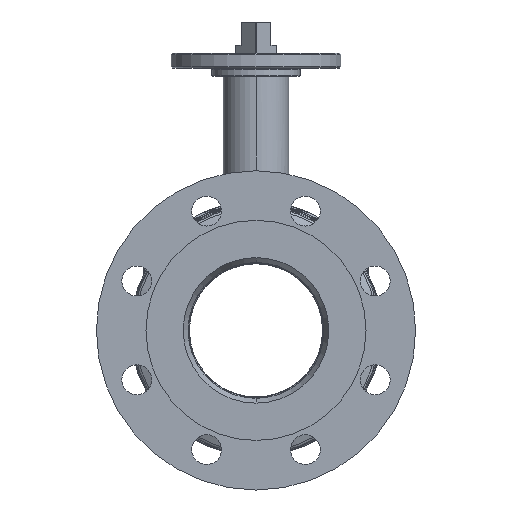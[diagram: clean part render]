
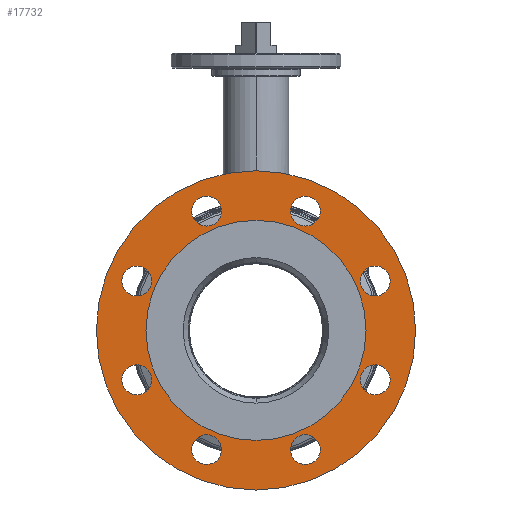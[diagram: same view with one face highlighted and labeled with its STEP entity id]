
A CAD part, left-side view. The second image highlights one B-rep face of the part: STEP entity #17732.
In plain terms, the highlighted planar face has unit normal (-1, 0, 0).
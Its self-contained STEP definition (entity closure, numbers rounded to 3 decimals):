
#5960=CARTESIAN_POINT('',(-173.,0.,0.));
#5961=DIRECTION('',(1.,0.,0.));
#5962=DIRECTION('',(0.,0.,1.));
#5963=AXIS2_PLACEMENT_3D('',#5960,#5961,#5962);
#5969=CARTESIAN_POINT('',(-173.,0.,0.));
#5970=DIRECTION('',(-1.,0.,0.));
#5971=DIRECTION('',(0.,0.,1.));
#5972=AXIS2_PLACEMENT_3D('',#5969,#5970,#5971);
#5978=CARTESIAN_POINT('',(-173.,0.,0.));
#5979=DIRECTION('',(-1.,0.,0.));
#5980=DIRECTION('',(0.,0.,1.));
#5981=AXIS2_PLACEMENT_3D('',#5978,#5979,#5980);
#5983=CARTESIAN_POINT('',(-173.,0.,0.));
#5984=DIRECTION('',(-1.,0.,0.));
#5985=DIRECTION('',(0.,0.,-1.));
#5986=AXIS2_PLACEMENT_3D('',#5983,#5984,#5985);
#5988=CARTESIAN_POINT('',(-173.,36.355,-87.769));
#5989=DIRECTION('',(-1.,0.,0.));
#5990=DIRECTION('',(0.,-1.,0.));
#5991=AXIS2_PLACEMENT_3D('',#5988,#5989,#5990);
#5993=CARTESIAN_POINT('',(-173.,36.355,-87.769));
#5994=DIRECTION('',(-1.,0.,0.));
#5995=DIRECTION('',(0.,1.,0.));
#5996=AXIS2_PLACEMENT_3D('',#5993,#5994,#5995);
#5998=CARTESIAN_POINT('',(-173.,87.769,-36.355));
#5999=DIRECTION('',(-1.,0.,0.));
#6000=DIRECTION('',(0.,-1.,0.));
#6001=AXIS2_PLACEMENT_3D('',#5998,#5999,#6000);
#6003=CARTESIAN_POINT('',(-173.,87.769,-36.355));
#6004=DIRECTION('',(-1.,0.,0.));
#6005=DIRECTION('',(0.,1.,0.));
#6006=AXIS2_PLACEMENT_3D('',#6003,#6004,#6005);
#6008=CARTESIAN_POINT('',(-173.,87.769,36.355));
#6009=DIRECTION('',(-1.,0.,0.));
#6010=DIRECTION('',(0.,-1.,0.));
#6011=AXIS2_PLACEMENT_3D('',#6008,#6009,#6010);
#6013=CARTESIAN_POINT('',(-173.,87.769,36.355));
#6014=DIRECTION('',(-1.,0.,0.));
#6015=DIRECTION('',(0.,1.,0.));
#6016=AXIS2_PLACEMENT_3D('',#6013,#6014,#6015);
#6018=CARTESIAN_POINT('',(-173.,36.355,87.769));
#6019=DIRECTION('',(-1.,0.,0.));
#6020=DIRECTION('',(0.,-1.,0.));
#6021=AXIS2_PLACEMENT_3D('',#6018,#6019,#6020);
#6023=CARTESIAN_POINT('',(-173.,36.355,87.769));
#6024=DIRECTION('',(-1.,0.,0.));
#6025=DIRECTION('',(0.,1.,0.));
#6026=AXIS2_PLACEMENT_3D('',#6023,#6024,#6025);
#6028=CARTESIAN_POINT('',(-173.,-36.355,87.769));
#6029=DIRECTION('',(-1.,0.,0.));
#6030=DIRECTION('',(0.,-1.,0.));
#6031=AXIS2_PLACEMENT_3D('',#6028,#6029,#6030);
#6033=CARTESIAN_POINT('',(-173.,-36.355,87.769));
#6034=DIRECTION('',(-1.,0.,0.));
#6035=DIRECTION('',(0.,1.,0.));
#6036=AXIS2_PLACEMENT_3D('',#6033,#6034,#6035);
#6038=CARTESIAN_POINT('',(-173.,-87.769,36.355));
#6039=DIRECTION('',(-1.,0.,0.));
#6040=DIRECTION('',(0.,-1.,0.));
#6041=AXIS2_PLACEMENT_3D('',#6038,#6039,#6040);
#6043=CARTESIAN_POINT('',(-173.,-87.769,36.355));
#6044=DIRECTION('',(-1.,0.,0.));
#6045=DIRECTION('',(0.,1.,0.));
#6046=AXIS2_PLACEMENT_3D('',#6043,#6044,#6045);
#6048=CARTESIAN_POINT('',(-173.,-87.769,-36.355));
#6049=DIRECTION('',(-1.,0.,0.));
#6050=DIRECTION('',(0.,-1.,0.));
#6051=AXIS2_PLACEMENT_3D('',#6048,#6049,#6050);
#6053=CARTESIAN_POINT('',(-173.,-87.769,-36.355));
#6054=DIRECTION('',(-1.,0.,0.));
#6055=DIRECTION('',(0.,1.,0.));
#6056=AXIS2_PLACEMENT_3D('',#6053,#6054,#6055);
#6058=CARTESIAN_POINT('',(-173.,-36.355,-87.769));
#6059=DIRECTION('',(-1.,0.,0.));
#6060=DIRECTION('',(0.,-1.,0.));
#6061=AXIS2_PLACEMENT_3D('',#6058,#6059,#6060);
#6063=CARTESIAN_POINT('',(-173.,-36.355,-87.769));
#6064=DIRECTION('',(-1.,0.,0.));
#6065=DIRECTION('',(0.,1.,0.));
#6066=AXIS2_PLACEMENT_3D('',#6063,#6064,#6065);
#8420=CARTESIAN_POINT('',(-173.,0.,81.));
#8421=CARTESIAN_POINT('',(-173.,0.,-81.));
#8422=VERTEX_POINT('',#8420);
#8423=VERTEX_POINT('',#8421);
#8424=CARTESIAN_POINT('',(-173.,0.,117.5));
#8425=CARTESIAN_POINT('',(-173.,0.,-117.5));
#8426=VERTEX_POINT('',#8424);
#8427=VERTEX_POINT('',#8425);
#8432=CARTESIAN_POINT('',(-173.,25.355,-87.769));
#8433=CARTESIAN_POINT('',(-173.,47.355,-87.769));
#8434=VERTEX_POINT('',#8432);
#8435=VERTEX_POINT('',#8433);
#8436=CARTESIAN_POINT('',(-173.,76.769,-36.355));
#8437=CARTESIAN_POINT('',(-173.,98.769,-36.355));
#8438=VERTEX_POINT('',#8436);
#8439=VERTEX_POINT('',#8437);
#8440=CARTESIAN_POINT('',(-173.,76.769,36.355));
#8441=CARTESIAN_POINT('',(-173.,98.769,36.355));
#8442=VERTEX_POINT('',#8440);
#8443=VERTEX_POINT('',#8441);
#8444=CARTESIAN_POINT('',(-173.,25.355,87.769));
#8445=CARTESIAN_POINT('',(-173.,47.355,87.769));
#8446=VERTEX_POINT('',#8444);
#8447=VERTEX_POINT('',#8445);
#8448=CARTESIAN_POINT('',(-173.,-47.355,87.769));
#8449=CARTESIAN_POINT('',(-173.,-25.355,87.769));
#8450=VERTEX_POINT('',#8448);
#8451=VERTEX_POINT('',#8449);
#8452=CARTESIAN_POINT('',(-173.,-98.769,36.355));
#8453=CARTESIAN_POINT('',(-173.,-76.769,36.355));
#8454=VERTEX_POINT('',#8452);
#8455=VERTEX_POINT('',#8453);
#8456=CARTESIAN_POINT('',(-173.,-98.769,-36.355));
#8457=CARTESIAN_POINT('',(-173.,-76.769,-36.355));
#8458=VERTEX_POINT('',#8456);
#8459=VERTEX_POINT('',#8457);
#8460=CARTESIAN_POINT('',(-173.,-47.355,-87.769));
#8461=CARTESIAN_POINT('',(-173.,-25.355,-87.769));
#8462=VERTEX_POINT('',#8460);
#8463=VERTEX_POINT('',#8461);
#17669=CARTESIAN_POINT('',(-173.,0.,0.));
#17670=DIRECTION('',(1.,0.,0.));
#17671=DIRECTION('',(0.,0.,1.));
#17672=AXIS2_PLACEMENT_3D('',#17669,#17670,#17671);
#17673=PLANE('',#17672);
#17675=ORIENTED_EDGE('',*,*,#17674,.F.);
#17677=ORIENTED_EDGE('',*,*,#17676,.F.);
#17678=EDGE_LOOP('',(#17675,#17677));
#17679=FACE_OUTER_BOUND('',#17678,.F.);
#17680=ORIENTED_EDGE('',*,*,#17663,.T.);
#17681=ORIENTED_EDGE('',*,*,#17649,.F.);
#17682=EDGE_LOOP('',(#17680,#17681));
#17683=FACE_BOUND('',#17682,.F.);
#17685=ORIENTED_EDGE('',*,*,#17684,.T.);
#17687=ORIENTED_EDGE('',*,*,#17686,.T.);
#17688=EDGE_LOOP('',(#17685,#17687));
#17689=FACE_BOUND('',#17688,.F.);
#17691=ORIENTED_EDGE('',*,*,#17690,.T.);
#17693=ORIENTED_EDGE('',*,*,#17692,.T.);
#17694=EDGE_LOOP('',(#17691,#17693));
#17695=FACE_BOUND('',#17694,.F.);
#17697=ORIENTED_EDGE('',*,*,#17696,.T.);
#17699=ORIENTED_EDGE('',*,*,#17698,.T.);
#17700=EDGE_LOOP('',(#17697,#17699));
#17701=FACE_BOUND('',#17700,.F.);
#17703=ORIENTED_EDGE('',*,*,#17702,.T.);
#17705=ORIENTED_EDGE('',*,*,#17704,.T.);
#17706=EDGE_LOOP('',(#17703,#17705));
#17707=FACE_BOUND('',#17706,.F.);
#17709=ORIENTED_EDGE('',*,*,#17708,.T.);
#17711=ORIENTED_EDGE('',*,*,#17710,.T.);
#17712=EDGE_LOOP('',(#17709,#17711));
#17713=FACE_BOUND('',#17712,.F.);
#17715=ORIENTED_EDGE('',*,*,#17714,.T.);
#17717=ORIENTED_EDGE('',*,*,#17716,.T.);
#17718=EDGE_LOOP('',(#17715,#17717));
#17719=FACE_BOUND('',#17718,.F.);
#17721=ORIENTED_EDGE('',*,*,#17720,.T.);
#17723=ORIENTED_EDGE('',*,*,#17722,.T.);
#17724=EDGE_LOOP('',(#17721,#17723));
#17725=FACE_BOUND('',#17724,.F.);
#17727=ORIENTED_EDGE('',*,*,#17726,.T.);
#17729=ORIENTED_EDGE('',*,*,#17728,.T.);
#17730=EDGE_LOOP('',(#17727,#17729));
#17731=FACE_BOUND('',#17730,.F.);
#17732=ADVANCED_FACE('',(#17679,#17683,#17689,#17695,#17701,#17707,#17713,
#17719,#17725,#17731),#17673,.F.);
#5964=CIRCLE('',#5963,81.);
#5973=CIRCLE('',#5972,81.);
#5982=CIRCLE('',#5981,117.5);
#5987=CIRCLE('',#5986,117.5);
#5992=CIRCLE('',#5991,11.);
#5997=CIRCLE('',#5996,11.);
#6002=CIRCLE('',#6001,11.);
#6007=CIRCLE('',#6006,11.);
#6012=CIRCLE('',#6011,11.);
#6017=CIRCLE('',#6016,11.);
#6022=CIRCLE('',#6021,11.);
#6027=CIRCLE('',#6026,11.);
#6032=CIRCLE('',#6031,11.);
#6037=CIRCLE('',#6036,11.);
#6042=CIRCLE('',#6041,11.);
#6047=CIRCLE('',#6046,11.);
#6052=CIRCLE('',#6051,11.);
#6057=CIRCLE('',#6056,11.);
#6062=CIRCLE('',#6061,11.);
#6067=CIRCLE('',#6066,11.);
#17649=EDGE_CURVE('',#8422,#8423,#5964,.T.);
#17663=EDGE_CURVE('',#8422,#8423,#5973,.T.);
#17674=EDGE_CURVE('',#8426,#8427,#5982,.T.);
#17676=EDGE_CURVE('',#8427,#8426,#5987,.T.);
#17684=EDGE_CURVE('',#8434,#8435,#5992,.T.);
#17686=EDGE_CURVE('',#8435,#8434,#5997,.T.);
#17690=EDGE_CURVE('',#8438,#8439,#6002,.T.);
#17692=EDGE_CURVE('',#8439,#8438,#6007,.T.);
#17696=EDGE_CURVE('',#8442,#8443,#6012,.T.);
#17698=EDGE_CURVE('',#8443,#8442,#6017,.T.);
#17702=EDGE_CURVE('',#8446,#8447,#6022,.T.);
#17704=EDGE_CURVE('',#8447,#8446,#6027,.T.);
#17708=EDGE_CURVE('',#8450,#8451,#6032,.T.);
#17710=EDGE_CURVE('',#8451,#8450,#6037,.T.);
#17714=EDGE_CURVE('',#8454,#8455,#6042,.T.);
#17716=EDGE_CURVE('',#8455,#8454,#6047,.T.);
#17720=EDGE_CURVE('',#8458,#8459,#6052,.T.);
#17722=EDGE_CURVE('',#8459,#8458,#6057,.T.);
#17726=EDGE_CURVE('',#8462,#8463,#6062,.T.);
#17728=EDGE_CURVE('',#8463,#8462,#6067,.T.);
